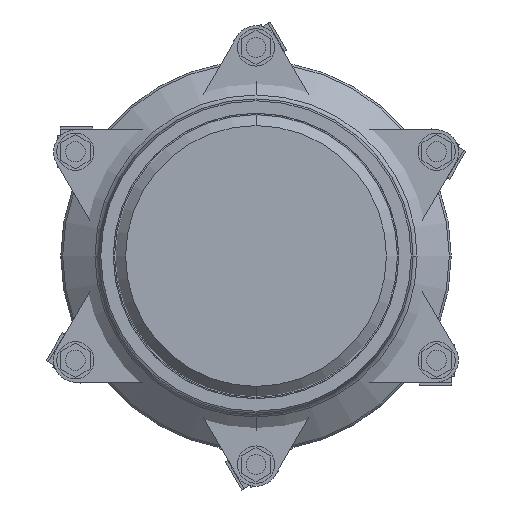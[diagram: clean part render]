
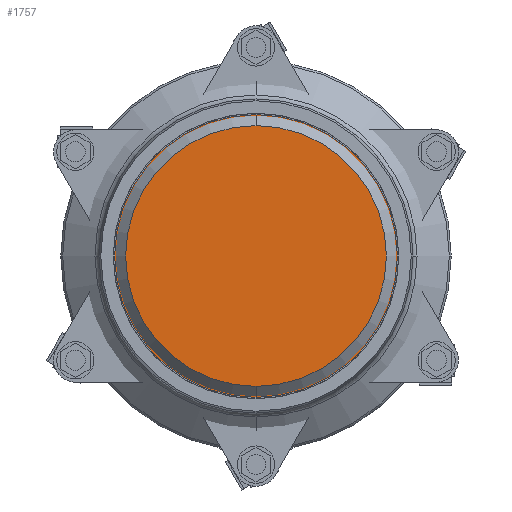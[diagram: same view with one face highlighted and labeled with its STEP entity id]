
A CAD part, left-side view. The second image highlights one B-rep face of the part: STEP entity #1757.
In plain terms, the highlighted planar face has unit normal (-1, 0, 0).
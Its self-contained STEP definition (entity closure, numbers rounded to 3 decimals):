
#1757=ADVANCED_FACE('',(#3513),#3514,.T.);
#3513=FACE_OUTER_BOUND('',#5824,.T.);
#3514=PLANE('',#5825);
#5824=EDGE_LOOP('',(#8553,#8554));
#5825=AXIS2_PLACEMENT_3D('',#8555,#8556,#8557);
#8553=ORIENTED_EDGE('',*,*,#12975,.T.);
#8554=ORIENTED_EDGE('',*,*,#12976,.T.);
#8555=CARTESIAN_POINT('',(30.093,0.0,-1.507));
#8556=DIRECTION('',(-1.0,0.0,0.));
#8557=DIRECTION('',(0.,0.0,1.0));
#12975=EDGE_CURVE('',#15473,#15474,#15475,.T.);
#12976=EDGE_CURVE('',#15474,#15473,#15476,.T.);
#15473=VERTEX_POINT('',#18716);
#15474=VERTEX_POINT('',#18717);
#15475=CIRCLE('',#18718,126.5);
#15476=CIRCLE('',#18719,126.5);
#18716=CARTESIAN_POINT('',(30.093,0.0,-128.007));
#18717=CARTESIAN_POINT('',(30.093,0.,124.993));
#18718=AXIS2_PLACEMENT_3D('',#21626,#21627,#21628);
#18719=AXIS2_PLACEMENT_3D('',#21629,#21630,#21631);
#21626=CARTESIAN_POINT('',(30.093,0.0,-1.507));
#21627=DIRECTION('',(-1.0,0.0,0.));
#21628=DIRECTION('',(0.,0.0,-1.0));
#21629=CARTESIAN_POINT('',(30.093,0.0,-1.507));
#21630=DIRECTION('',(-1.0,0.0,0.));
#21631=DIRECTION('',(0.,0.0,-1.0));
